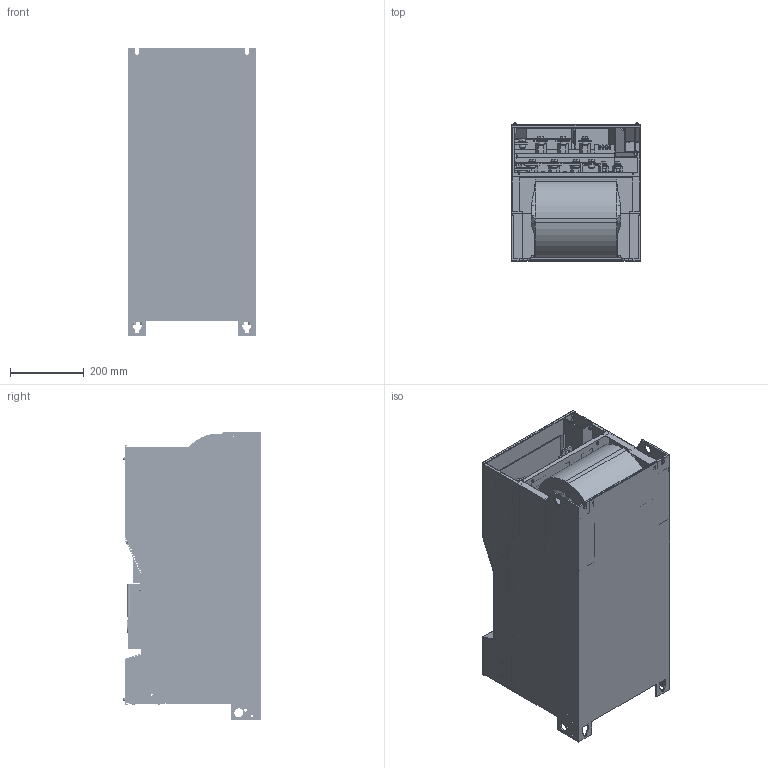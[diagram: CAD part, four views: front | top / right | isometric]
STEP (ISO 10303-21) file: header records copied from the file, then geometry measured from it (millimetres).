
FILE_DESCRIPTION((''),'2;1');
FILE_NAME('VFAS3J_S10_WITH_DCL_ASM','2020-08-28T19:55:57',('SESA57332'),('Schneider-Electric'),'CREO PARAMETRIC BY PTC INC, 2019164','CREO PARAMETRIC BY PTC INC, 2019164','');
FILE_SCHEMA(('CONFIG_CONTROL_DESIGN'));
Products named in the file (32): VFAS3J_DRIVE_J11; S6571331_000; VFAS3J_DISPLAY; VFAS3J_CTR_TERM2; VFAS3J_CTR_TERM_SHORT_BAR; VFAS3J_CTR_TERM_SCREW_M3-1; VFAS3J_CTR_TERM_SCREW_M3-2; VFAS3J_CTR_TERM_FL_COVER; VFAS3J_CTR_TERM_ASM; VFAS3J_DISPLAY_COVER; M4X10; M4X20; CLAMP_N3; CLAMP_N2; CABLE_CLAMP_ASM; M10X20; M8X20; M4_FAN_POWER_TERMINAL; M12_W-M; M12X35; M12_SW-2; M12_NUT; M8_NUT_WITH_WASHER; M6_NUT_WITH_WASHER; VFAS3J_GROUNDING_SWITCHING_BAR; VFAS3J_CABLE_CHANNEL_J11; VFAS3J_DC_TERMINAL_COVER_J11; VFAS3J_TERMINAL_COVER_J11; VFAS3J_FRONT_COVER_J11; VFAS3J_CHANNEL_COVER_HHP; VFAS3J_J11_000_ASM; VFAS3J_S10_WITH_DCL_ASM
Assembly tree (81 placements, depth 4):
  VFAS3J_S10_WITH_DCL_ASM
    VFAS3J_J11_000_ASM
      VFAS3J_DRIVE_J11
      S6571331_000
      VFAS3J_DISPLAY
      VFAS3J_CTR_TERM_ASM
        VFAS3J_CTR_TERM2
        VFAS3J_CTR_TERM_SHORT_BAR  x2
        VFAS3J_CTR_TERM_SCREW_M3-1  x23
        VFAS3J_CTR_TERM_SCREW_M3-2  x3
        VFAS3J_CTR_TERM_FL_COVER
      VFAS3J_DISPLAY_COVER
      CABLE_CLAMP_ASM
        M4X10  x2
        M4X20
        CLAMP_N3
        CLAMP_N2  x2
      M10X20  x9
      M8X20  x2
      M4_FAN_POWER_TERMINAL  x3
      M12_W-M  x6
      M12X35  x3
      M12_SW-2  x3
      M12_NUT  x3
      M8_NUT_WITH_WASHER
      M6_NUT_WITH_WASHER  x2
      VFAS3J_GROUNDING_SWITCHING_BAR
      VFAS3J_CABLE_CHANNEL_J11
      VFAS3J_DC_TERMINAL_COVER_J11
      VFAS3J_TERMINAL_COVER_J11
      VFAS3J_FRONT_COVER_J11
      VFAS3J_CHANNEL_COVER_HHP
Bounding box: 350 x 374.4 x 782 mm (x, y, z)
Volume: 60539773.4 mm3; surface area: 3439277.2 mm2
Topology: 78 solids, 97 shells, 6175 faces, 17295 edges, 11613 vertices
Faces by surface type: plane 4680, cylinder 1162, torus 156, cone 93, sphere 84
Entity records: 177453 total; most frequent: CARTESIAN_POINT 32511, ORIENTED_EDGE 30464, DIRECTION 29233, EDGE_CURVE 15232, VECTOR 11865, LINE 11865, VERTEX_POINT 10264, AXIS2_PLACEMENT_3D 8684
